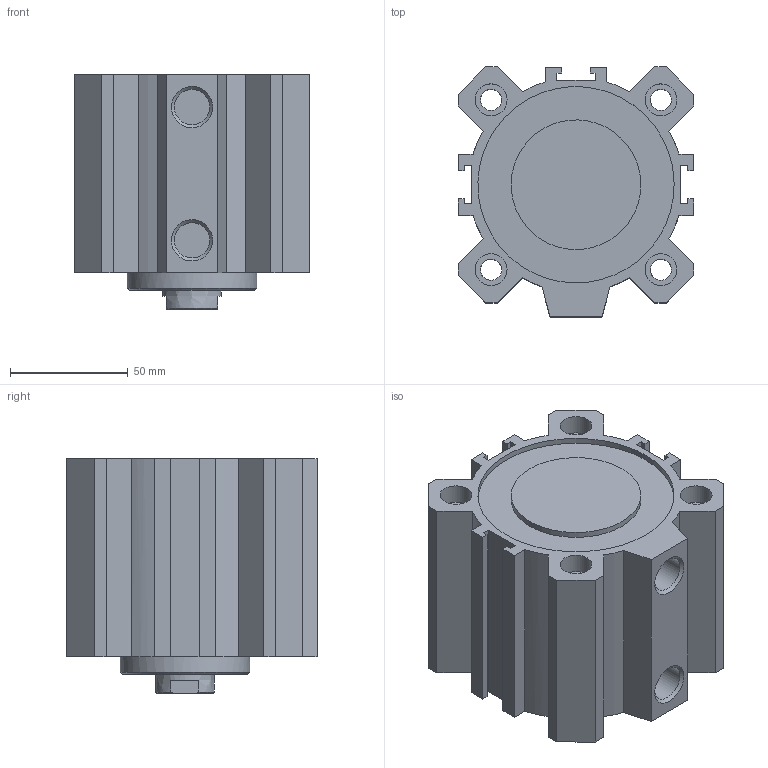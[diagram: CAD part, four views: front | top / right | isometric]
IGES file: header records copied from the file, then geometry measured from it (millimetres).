
Global section: file name: 1511_80_0035; native system: Autodesk Inventor 2014; preprocessor: unknown; author: A. Manieri; date: 20160824.142151; units: millimetre
Bounding box: 100 x 106 x 99.5 mm (x, y, z)
Volume: 529922 mm3; surface area: 119860.9 mm2
Topology: 2 solids, 2 shells, 119 faces, 307 edges, 210 vertices
Faces by surface type: bspline 119
